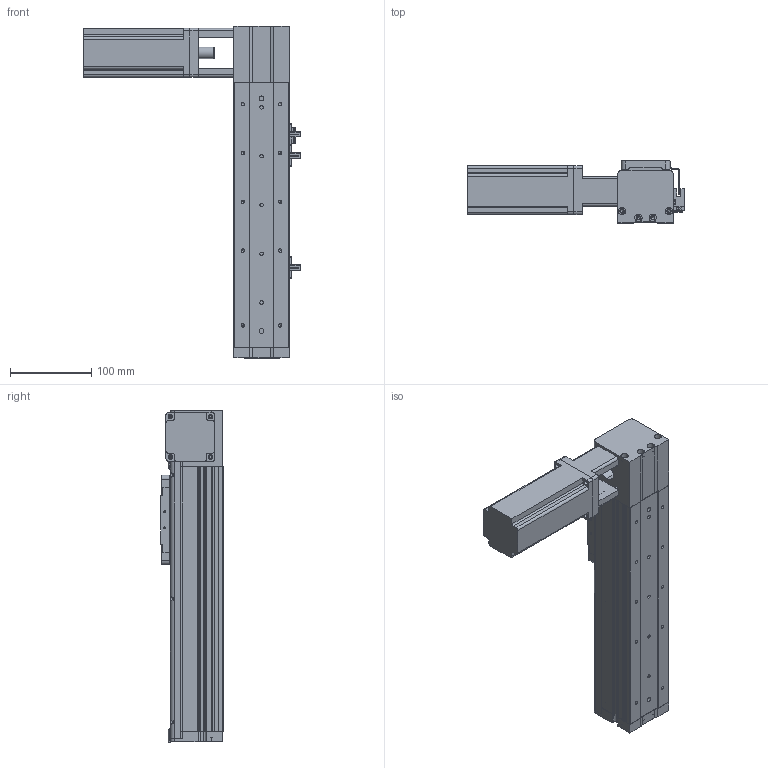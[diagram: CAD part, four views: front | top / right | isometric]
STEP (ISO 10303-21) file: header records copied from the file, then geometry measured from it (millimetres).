
FILE_DESCRIPTION (( 'STEP AP214' ), '1' );
FILE_NAME ('KSD68BS-S150-MLT-CR.STEP', '2019-11-08T05:11:18', ( '微软用户' ), ( '微软中国' ), 'SwSTEP 2.0', 'SolidWorks 2014', '' );
FILE_SCHEMA (( 'AUTOMOTIVE_DESIGN' ));
Length unit declared in the file: millimetre
Products named in the file (13): 68单导轨全封闭同步带电机座右; 68单导轨全封闭同步带安装板; 感应片68宽全封闭; U倰嫖萇EEㄜSX672; 台达ECMA－C20604AS伺服电机（400W); KSD68BS 150行程底板全封闭; KSD68BS-S150-MLT-CR; 100遵鎮湛假蚾啣1; KSD68BS 150行程盖板全封闭; 68遵裔啣揤啣1; 68宽单导轨全封闭丝杆传动安装板1防护罩; KSD68BS 150行程侧板全封闭; 68宽单导轨全封闭同步带端板
Assembly tree (16 placements, depth 2):
  KSD68BS-S150-MLT-CR
    KSD68BS 150行程底板全封闭
    台达ECMA－C20604AS伺服电机（400W)
    U倰嫖萇EEㄜSX672  x3
    感应片68宽全封闭
    68单导轨全封闭同步带安装板
    68单导轨全封闭同步带电机座右
    68宽单导轨全封闭同步带端板
    KSD68BS 150行程侧板全封闭  x2
    68宽单导轨全封闭丝杆传动安装板1防护罩
    68遵裔啣揤啣1  x2
    KSD68BS 150行程盖板全封闭
    100遵鎮湛假蚾啣1
Bounding box: 266.4 x 77 x 408.1 mm (x, y, z)
Volume: 1340398.1 mm3; surface area: 393749.7 mm2
Topology: 17 solids, 17 shells, 1318 faces, 3706 edges, 2379 vertices
Faces by surface type: plane 600, cylinder 586, cone 132
Entity records: 40575 total; most frequent: CARTESIAN_POINT 6779, DIRECTION 6094, ORIENTED_EDGE 5848, EDGE_CURVE 2924, AXIS2_PLACEMENT_3D 2164, VERTEX_POINT 1917, VECTOR 1766, LINE 1766
